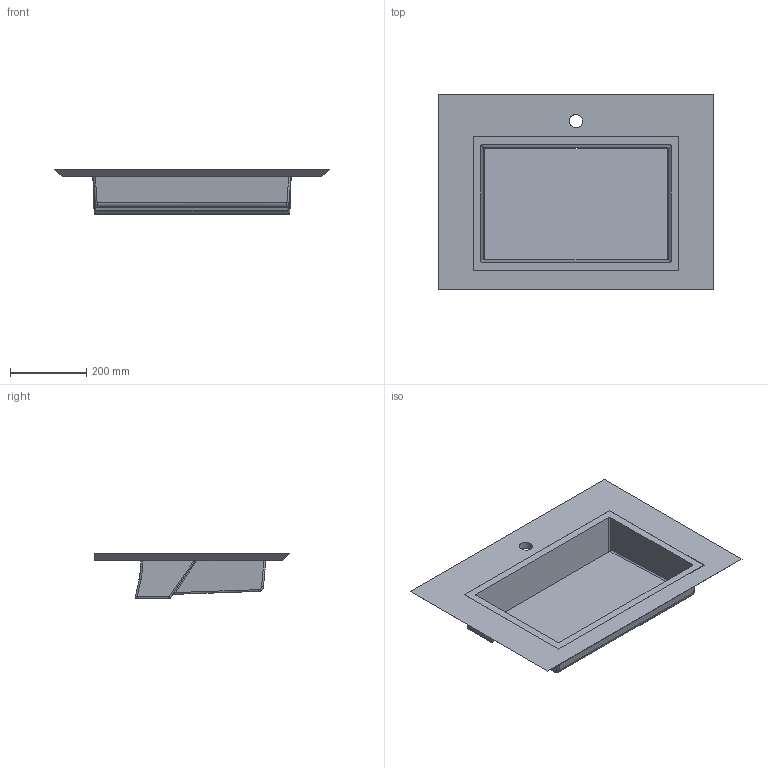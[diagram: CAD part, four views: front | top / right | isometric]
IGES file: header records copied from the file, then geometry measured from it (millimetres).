
Start section: Data from Parasolid IGES Translator 19.0.9, Copyright(c) 2006 Siemens PL M Software. All Rights Reserved.
Global section: file name: noorth-top-H 1,9 D 51,3 W 72_6540.igs; native system: By Siemens PLM Incorporated; preprocessor: XPlus GENERIC/IGES 19.0.9; author: Noname; organization: Noname; date: 20200603.094251; units: metre
Bounding box: 720 x 512 x 118.64 mm (x, y, z)
Volume: 7220085 mm3; surface area: 1122582.5 mm2
Topology: 2 solids, 2 shells, 93 faces, 223 edges, 130 vertices
Faces by surface type: plane 37, bspline 29, cylinder 27
Full cylindrical faces by diameter (mm): 34.9 x1
